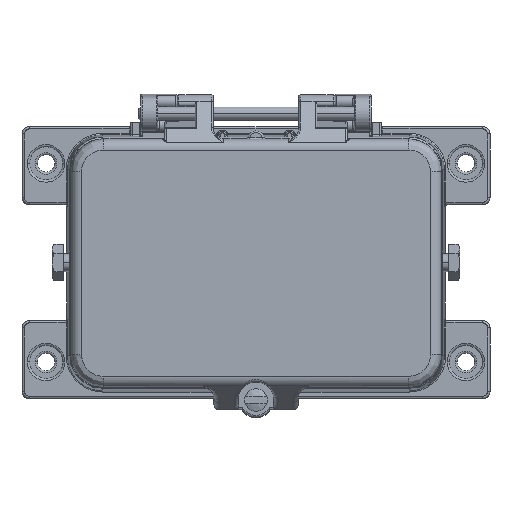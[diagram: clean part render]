
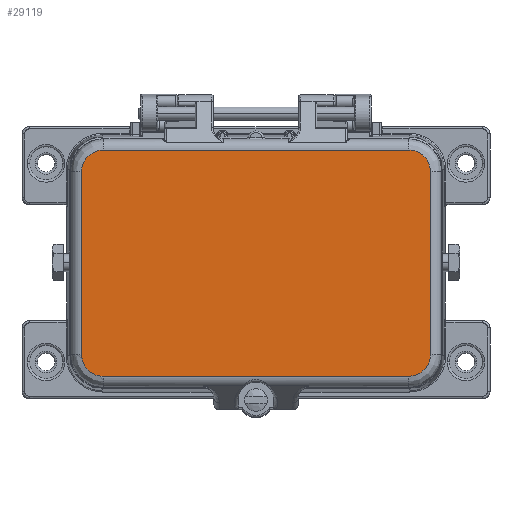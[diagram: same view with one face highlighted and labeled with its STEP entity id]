
A CAD part, top view. The second image highlights one B-rep face of the part: STEP entity #29119.
In plain terms, the highlighted planar face has unit normal (0, -0.001, 1).
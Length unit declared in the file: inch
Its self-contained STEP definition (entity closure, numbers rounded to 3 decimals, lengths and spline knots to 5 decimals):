
#22875=CARTESIAN_POINT('',(-2.12021,-1.57019,0.7));
#22876=CARTESIAN_POINT('',(-2.14021,-1.57019,0.7));
#22877=CARTESIAN_POINT('',(-2.17923,-1.56626,0.7));
#22878=CARTESIAN_POINT('',(-2.2355,-1.54922,0.7));
#22879=CARTESIAN_POINT('',(-2.28743,-1.52157,0.7));
#22880=CARTESIAN_POINT('',(-2.33301,-1.48434,0.7));
#22881=CARTESIAN_POINT('',(-2.37043,-1.43913,0.7));
#22882=CARTESIAN_POINT('',(-2.39867,-1.387,0.7));
#22883=CARTESIAN_POINT('',(-2.41623,-1.32972,0.7));
#22884=CARTESIAN_POINT('',(-2.42019,-1.29036,0.7));
#22885=CARTESIAN_POINT('',(-2.42019,-1.27021,0.7));
#22887=DIRECTION('',(0.,1.,0.));
#22888=VECTOR('',#22887,2.54041);
#22889=CARTESIAN_POINT('',(-2.42019,-1.27021,0.7));
#22890=LINE('',#22889,#22888);
#22891=CARTESIAN_POINT('',(-2.42019,1.27021,0.7));
#22892=CARTESIAN_POINT('',(-2.42019,1.29021,0.7));
#22893=CARTESIAN_POINT('',(-2.41626,1.32923,0.7));
#22894=CARTESIAN_POINT('',(-2.39922,1.3855,0.7));
#22895=CARTESIAN_POINT('',(-2.37157,1.43743,0.7));
#22896=CARTESIAN_POINT('',(-2.33434,1.48301,0.7));
#22897=CARTESIAN_POINT('',(-2.28913,1.52043,0.7));
#22898=CARTESIAN_POINT('',(-2.237,1.54867,0.7));
#22899=CARTESIAN_POINT('',(-2.17972,1.56623,0.7));
#22900=CARTESIAN_POINT('',(-2.14036,1.57019,0.7));
#22901=CARTESIAN_POINT('',(-2.12021,1.57019,0.7));
#22903=DIRECTION('',(1.,0.,0.));
#22904=VECTOR('',#22903,4.24041);
#22905=CARTESIAN_POINT('',(-2.12021,1.57019,0.7));
#22906=LINE('',#22905,#22904);
#22907=CARTESIAN_POINT('',(2.12021,1.57019,0.7));
#22908=CARTESIAN_POINT('',(2.14021,1.57019,0.7));
#22909=CARTESIAN_POINT('',(2.17923,1.56626,0.7));
#22910=CARTESIAN_POINT('',(2.2355,1.54922,0.7));
#22911=CARTESIAN_POINT('',(2.28743,1.52157,0.7));
#22912=CARTESIAN_POINT('',(2.33301,1.48434,0.7));
#22913=CARTESIAN_POINT('',(2.37043,1.43913,0.7));
#22914=CARTESIAN_POINT('',(2.39867,1.387,0.7));
#22915=CARTESIAN_POINT('',(2.41623,1.32972,0.7));
#22916=CARTESIAN_POINT('',(2.42019,1.29036,0.7));
#22917=CARTESIAN_POINT('',(2.42019,1.27021,0.7));
#22919=DIRECTION('',(0.,-1.,0.));
#22920=VECTOR('',#22919,2.54041);
#22921=CARTESIAN_POINT('',(2.42019,1.27021,0.7));
#22922=LINE('',#22921,#22920);
#22923=CARTESIAN_POINT('',(2.42019,-1.27021,0.7));
#22924=CARTESIAN_POINT('',(2.42019,-1.29021,0.7));
#22925=CARTESIAN_POINT('',(2.41626,-1.32923,0.7));
#22926=CARTESIAN_POINT('',(2.39922,-1.3855,0.7));
#22927=CARTESIAN_POINT('',(2.37157,-1.43743,0.7));
#22928=CARTESIAN_POINT('',(2.33434,-1.48301,0.7));
#22929=CARTESIAN_POINT('',(2.28913,-1.52043,0.7));
#22930=CARTESIAN_POINT('',(2.237,-1.54867,0.7));
#22931=CARTESIAN_POINT('',(2.17972,-1.56623,0.7));
#22932=CARTESIAN_POINT('',(2.14036,-1.57019,0.7));
#22933=CARTESIAN_POINT('',(2.12021,-1.57019,0.7));
#22935=DIRECTION('',(-1.,0.,0.));
#22936=VECTOR('',#22935,4.24041);
#22937=CARTESIAN_POINT('',(2.12021,-1.57019,0.7));
#22938=LINE('',#22937,#22936);
#23317=VERTEX_POINT('',#22875);
#23318=VERTEX_POINT('',#22885);
#23321=CARTESIAN_POINT('',(-2.42019,1.27021,0.7));
#23322=VERTEX_POINT('',#23321);
#23324=VERTEX_POINT('',#22901);
#23325=CARTESIAN_POINT('',(2.12021,1.57019,0.7));
#23326=VERTEX_POINT('',#23325);
#23329=VERTEX_POINT('',#22917);
#23332=CARTESIAN_POINT('',(2.42019,-1.27021,0.7));
#23333=VERTEX_POINT('',#23332);
#23335=VERTEX_POINT('',#22933);
#29104=CARTESIAN_POINT('',(0.,0.,0.7));
#29105=DIRECTION('',(0.,0.,1.));
#29106=DIRECTION('',(1.,0.,0.));
#29107=AXIS2_PLACEMENT_3D('',#29104,#29105,#29106);
#29108=PLANE('',#29107);
#29109=ORIENTED_EDGE('',*,*,#28996,.T.);
#29110=ORIENTED_EDGE('',*,*,#29011,.T.);
#29111=ORIENTED_EDGE('',*,*,#29098,.T.);
#29112=ORIENTED_EDGE('',*,*,#27317,.T.);
#29113=ORIENTED_EDGE('',*,*,#27435,.T.);
#29114=ORIENTED_EDGE('',*,*,#27450,.T.);
#29115=ORIENTED_EDGE('',*,*,#27539,.T.);
#29116=ORIENTED_EDGE('',*,*,#27574,.T.);
#29117=EDGE_LOOP('',(#29109,#29110,#29111,#29112,#29113,#29114,#29115,#29116));
#29118=FACE_OUTER_BOUND('',#29117,.F.);
#29119=ADVANCED_FACE('',(#29118),#29108,.T.);
#22886=B_SPLINE_CURVE_WITH_KNOTS('',3,(#22875,#22876,#22877,#22878,#22879,
#22880,#22881,#22882,#22883,#22884,#22885),.UNSPECIFIED.,.F.,.F.,(4,1,1,1,1,1,1,
1,4),(0.,0.125,0.25,0.375,0.5,0.625,0.75,0.875,1.),
.UNSPECIFIED.);
#22902=B_SPLINE_CURVE_WITH_KNOTS('',3,(#22891,#22892,#22893,#22894,#22895,
#22896,#22897,#22898,#22899,#22900,#22901),.UNSPECIFIED.,.F.,.F.,(4,1,1,1,1,1,1,
1,4),(0.,0.125,0.25,0.375,0.5,0.625,0.75,0.875,1.),
.UNSPECIFIED.);
#22918=B_SPLINE_CURVE_WITH_KNOTS('',3,(#22907,#22908,#22909,#22910,#22911,
#22912,#22913,#22914,#22915,#22916,#22917),.UNSPECIFIED.,.F.,.F.,(4,1,1,1,1,1,1,
1,4),(0.,0.125,0.25,0.375,0.5,0.625,0.75,0.875,1.),
.UNSPECIFIED.);
#22934=B_SPLINE_CURVE_WITH_KNOTS('',3,(#22923,#22924,#22925,#22926,#22927,
#22928,#22929,#22930,#22931,#22932,#22933),.UNSPECIFIED.,.F.,.F.,(4,1,1,1,1,1,1,
1,4),(0.,0.125,0.25,0.375,0.5,0.625,0.75,0.875,1.),
.UNSPECIFIED.);
#27317=EDGE_CURVE('',#23324,#23326,#22906,.T.);
#27435=EDGE_CURVE('',#23326,#23329,#22918,.T.);
#27450=EDGE_CURVE('',#23329,#23333,#22922,.T.);
#27539=EDGE_CURVE('',#23333,#23335,#22934,.T.);
#27574=EDGE_CURVE('',#23335,#23317,#22938,.T.);
#28996=EDGE_CURVE('',#23317,#23318,#22886,.T.);
#29011=EDGE_CURVE('',#23318,#23322,#22890,.T.);
#29098=EDGE_CURVE('',#23322,#23324,#22902,.T.);
